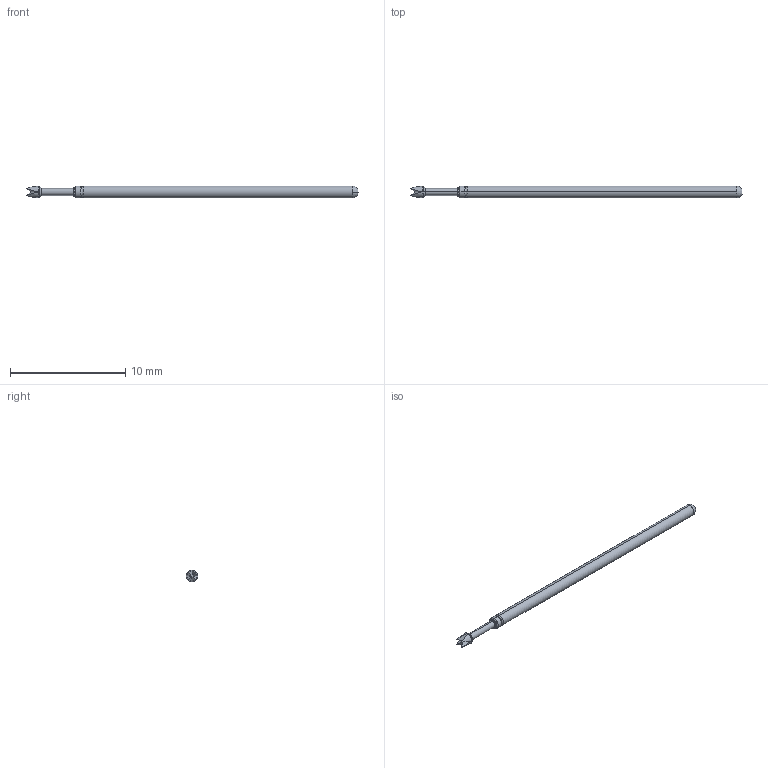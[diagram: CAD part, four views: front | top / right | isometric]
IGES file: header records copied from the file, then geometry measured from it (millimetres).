
Start section: SolidWorks IGES file using analytic representation for surfaces
Global section: file name: Z:\probe solid model mockups\Solidworks models\Parts\LFRE-1L RECD.IGS; native system: SolidWorks 2016; preprocessor: SolidWorks 2016; author: mlee; date: 180927.163549; units: inch
Bounding box: 28.78 x 1.02 x 1.02 mm (x, y, z)
Surface area: 89.4 mm2 (no closed solid volume)
Topology: 0 solids, 0 shells, 32 faces, 186 edges, 186 vertices
Faces by surface type: revolution 18, bspline 14
